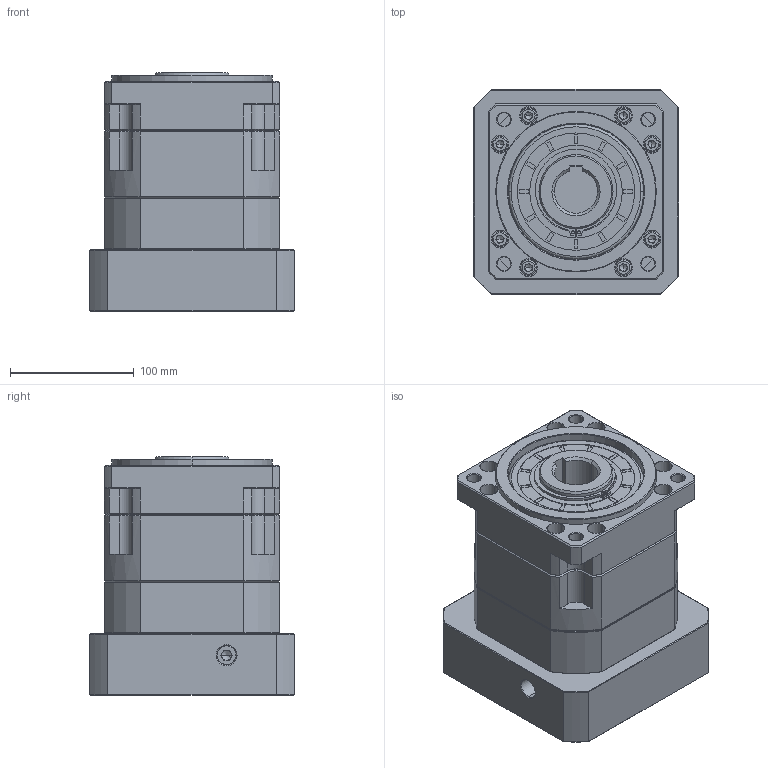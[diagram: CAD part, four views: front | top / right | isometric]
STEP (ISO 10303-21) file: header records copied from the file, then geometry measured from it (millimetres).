
FILE_DESCRIPTION (( 'STEP AP214' ), '1' );
FILE_NAME ('ZB142A-K35-L1-32-130-165-M10.step', '2023-03-17T10:48:53', ( '' ), ( '' ), 'SwSTEP 2.0', 'SolidWorks 2016', '' );
FILE_SCHEMA (( 'AUTOMOTIVE_DESIGN' ));
Length unit declared in the file: millimetre
Products named in the file (1): ZB142A-K35-L1-32-130-165-M10
Bounding box: 166 x 166 x 193.2 mm (x, y, z)
Volume: 3426418.1 mm3; surface area: 298759.9 mm2
Topology: 6 solids, 6 shells, 1983 faces, 5247 edges, 3362 vertices
Faces by surface type: plane 916, cylinder 395, cone 346, bspline 306, torus 20
Entity records: 106940 total; most frequent: CARTESIAN_POINT 38364, ORIENTED_EDGE 10438, DIRECTION 8618, EDGE_CURVE 5219, VERTEX_POINT 3362, LINE 3224, VECTOR 3224, AXIS2_PLACEMENT_3D 2697
